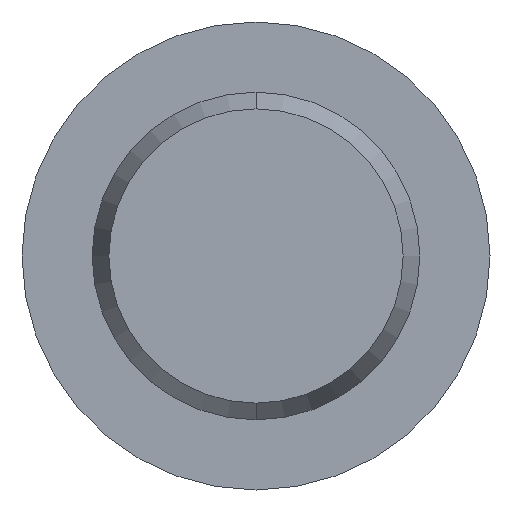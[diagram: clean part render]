
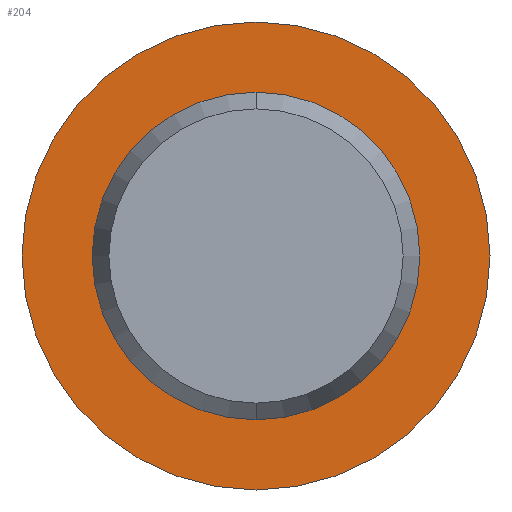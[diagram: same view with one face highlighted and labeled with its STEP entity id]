
A CAD part, front view. The second image highlights one B-rep face of the part: STEP entity #204.
In plain terms, the highlighted planar face has unit normal (0, -1, 0).
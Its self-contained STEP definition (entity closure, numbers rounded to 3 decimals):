
#90 = AXIS2_PLACEMENT_3D ( 'NONE', #950, #983, #970 ) ;
#115 = CARTESIAN_POINT ( 'NONE',  ( 0., 16.55, -17.495 ) ) ;
#187 = ORIENTED_EDGE ( 'NONE', *, *, #984, .F. ) ;
#204 = ADVANCED_FACE ( 'NONE', ( #771, #877 ), #1002, .F. ) ;
#237 = CARTESIAN_POINT ( 'NONE',  ( 0., 16.55, 17.495 ) ) ;
#298 = ORIENTED_EDGE ( 'NONE', *, *, #621, .F. ) ;
#339 = AXIS2_PLACEMENT_3D ( 'NONE', #590, #586, #582 ) ;
#387 = AXIS2_PLACEMENT_3D ( 'NONE', #884, #878, #875 ) ;
#408 = CIRCLE ( 'NONE', #339, 12.25 ) ;
#428 = AXIS2_PLACEMENT_3D ( 'NONE', #629, #622, #620 ) ;
#440 = CARTESIAN_POINT ( 'NONE',  ( 0., 16.55, 12.25 ) ) ;
#445 = AXIS2_PLACEMENT_3D ( 'NONE', #603, #599, #595 ) ;
#468 = ORIENTED_EDGE ( 'NONE', *, *, #1044, .T. ) ;
#493 = VERTEX_POINT ( 'NONE', #440 ) ;
#528 = VERTEX_POINT ( 'NONE', #237 ) ;
#555 = VERTEX_POINT ( 'NONE', #115 ) ;
#569 = EDGE_LOOP ( 'NONE', ( #298, #187 ) ) ;
#582 = DIRECTION ( 'NONE',  ( 0., 0., 1. ) ) ;
#586 = DIRECTION ( 'NONE',  ( 0., 1., 0. ) ) ;
#590 = CARTESIAN_POINT ( 'NONE',  ( 0., 16.55, 0. ) ) ;
#592 = CIRCLE ( 'NONE', #387, 17.495 ) ;
#595 = DIRECTION ( 'NONE',  ( 0., 0., 1. ) ) ;
#599 = DIRECTION ( 'NONE',  ( 0., 1., 0. ) ) ;
#603 = CARTESIAN_POINT ( 'NONE',  ( 0., 16.55, 0. ) ) ;
#620 = DIRECTION ( 'NONE',  ( 0., 0., 1. ) ) ;
#621 = EDGE_CURVE ( 'NONE', #528, #555, #963, .T. ) ;
#622 = DIRECTION ( 'NONE',  ( 0., 1., 0. ) ) ;
#624 = EDGE_CURVE ( 'NONE', #493, #999, #951, .T. ) ;
#629 = CARTESIAN_POINT ( 'NONE',  ( 0., 16.55, 0. ) ) ;
#771 = FACE_OUTER_BOUND ( 'NONE', #569, .T. ) ;
#823 = CARTESIAN_POINT ( 'NONE',  ( 0., 16.55, -12.25 ) ) ;
#875 = DIRECTION ( 'NONE',  ( 0., 0., 1. ) ) ;
#877 = FACE_BOUND ( 'NONE', #936, .T. ) ;
#878 = DIRECTION ( 'NONE',  ( 0., 1., 0. ) ) ;
#884 = CARTESIAN_POINT ( 'NONE',  ( 0., 16.55, 0. ) ) ;
#936 = EDGE_LOOP ( 'NONE', ( #946, #468 ) ) ;
#946 = ORIENTED_EDGE ( 'NONE', *, *, #624, .T. ) ;
#950 = CARTESIAN_POINT ( 'NONE',  ( 0., 16.55, -12.25 ) ) ;
#951 = CIRCLE ( 'NONE', #445, 12.25 ) ;
#963 = CIRCLE ( 'NONE', #428, 17.495 ) ;
#970 = DIRECTION ( 'NONE',  ( 0., 0., 1. ) ) ;
#983 = DIRECTION ( 'NONE',  ( 0., 1., 0. ) ) ;
#984 = EDGE_CURVE ( 'NONE', #555, #528, #592, .T. ) ;
#999 = VERTEX_POINT ( 'NONE', #823 ) ;
#1002 = PLANE ( 'NONE',  #90 ) ;
#1044 = EDGE_CURVE ( 'NONE', #999, #493, #408, .T. ) ;
